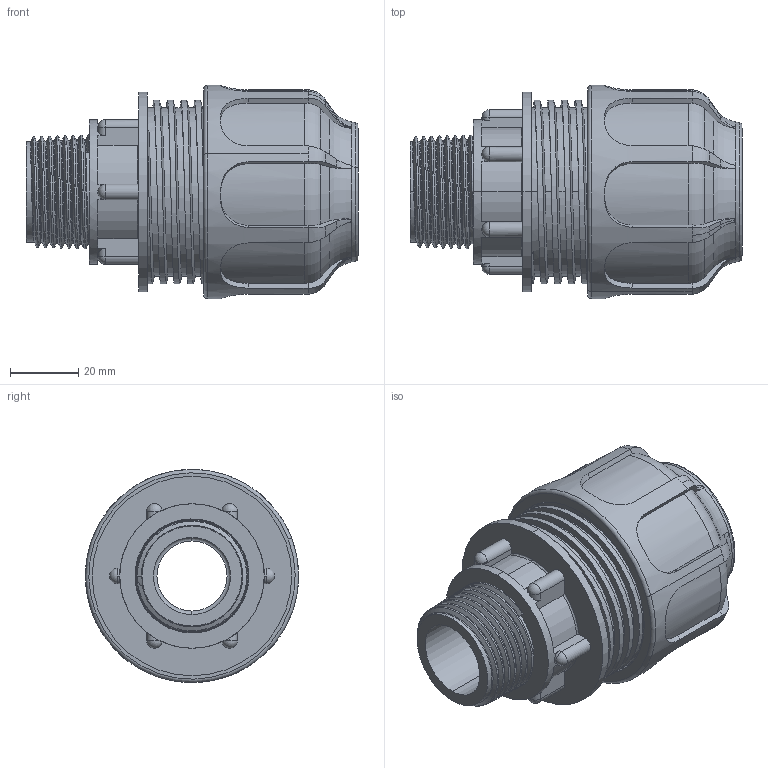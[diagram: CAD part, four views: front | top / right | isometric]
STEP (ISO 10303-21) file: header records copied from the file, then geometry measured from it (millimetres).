
FILE_DESCRIPTION (( 'STEP AP203' ), '1' );
FILE_NAME ('02004.0725.STEP', '2017-05-22T14:01:51', ( '' ), ( '' ), 'SwSTEP 2.0', 'SolidWorks 2011', '' );
FILE_SCHEMA (( 'CONFIG_CONTROL_DESIGN' ));
Length unit declared in the file: millimetre
Products named in the file (3): 02004.0725; 01711_2525; 01770_0725
Assembly tree (2 placements, depth 2):
  02004.0725
    01711_2525
    01770_0725
Bounding box: 97.02 x 62.3 x 62.3 mm (x, y, z)
Volume: 75813.9 mm3; surface area: 60678.3 mm2
Topology: 2 solids, 2 shells, 443 faces, 1418 edges, 976 vertices
Faces by surface type: cylinder 139, plane 130, torus 112, cone 45, bspline 11, sphere 6
Entity records: 31267 total; most frequent: CARTESIAN_POINT 19555, ORIENTED_EDGE 2814, DIRECTION 1946, EDGE_CURVE 1407, VERTEX_POINT 974, AXIS2_PLACEMENT_3D 786, B_SPLINE_CURVE_WITH_KNOTS 608, EDGE_LOOP 453
